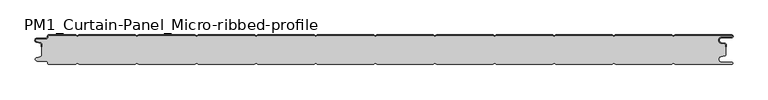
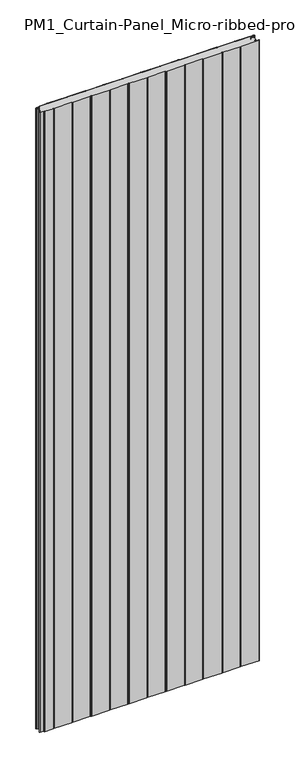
"""IFC4 building model written with IfcOpenShell, lengths in millimetres: plate geometry, PM1_Curtain-Panel_Micro-ribbed-profile : ACH_PM1_Acoustic-Sectioning-Panel_50M."""

from ifc_helpers import new_model, si_unit, point, frame, frame_2d, origin, origin_with_axes, place, context, project, spatial, polyline, circle_curve, trimmed, segment, composite_curve, outline, extrude, source, transform, mapped, element, save
from ifc_brep_helpers import plane_surface, cylinder_surface, revolved_surface, advanced_brep


def pm1_curtain_panel_micro_ribbed_profile_237f9545(model_context):
    return source(origin(), model_context, "Body", "SolidModel", [
        advanced_brep(
        [(-575.0, -15.878557, 3500.0), (-575.0, -20.0, 3500.0), (-574.2, -20.0, 3500.0), (-574.2, -15.878557, 3500.0), (-576.370137, -13.1503208, 3500.0), (-582.529863, -11.728236, 3500.0), (-581.9, -6.2, 3500.0), (-566.4, -6.2, 3500.0), (-563.6, -3.4, 3500.0), (-563.6, -2.0, 3500.0), (-562.4, -0.8, 3500.0), (-517.3143588, -0.8, 3500.0), (-514.4, -2.482606, 3500.0), (-511.4856412, -0.8, 3500.0), (-417.3143588, -0.8, 3500.0), (-414.4, -2.482606, 3500.0), (-411.4856412, -0.8, 3500.0), (-317.3143588, -0.8, 3500.0), (-314.4, -2.482606, 3500.0), (-311.4856412, -0.8, 3500.0), (-217.3143588, -0.8, 3500.0), (-214.4, -2.482606, 3500.0), (-211.4856412, -0.8, 3500.0), (-117.3143588, -0.8, 3500.0), (-114.4, -2.482606, 3500.0), (-111.4856412, -0.8, 3500.0), (-17.3143588, -0.8, 3500.0), (-14.4, -2.482606, 3500.0), (-11.4856412, -0.8, 3500.0), (82.6856412, -0.8, 3500.0), (85.6, -2.482606, 3500.0), (88.5143588, -0.8, 3500.0), (182.6856412, -0.8, 3500.0), (185.6, -2.482606, 3500.0), (188.5143588, -0.8, 3500.0), (282.6856412, -0.8, 3500.0), (285.6, -2.482606, 3500.0), (288.5143588, -0.8, 3500.0), (382.6856412, -0.8, 3500.0), (385.6, -2.482606, 3500.0), (388.5143588, -0.8, 3500.0), (482.6856412, -0.8, 3500.0), (485.6, -2.482606, 3500.0), (488.5143588, -0.8, 3500.0), (583.1, -0.8, 3500.0), (583.1, -4.2, 3500.0), (566.1, -4.2, 3500.0), (565.2664884, -13.7270771, 3500.0), (571.7125669, -14.8636953, 3500.0), (573.2, -16.6363492, 3500.0), (573.2, -20.0, 3500.0), (574.0, -20.0, 3500.0), (574.0, -16.6363492, 3500.0), (571.8514855, -14.0758491, 3500.0), (565.405407, -12.939231, 3500.0), (566.1, -5.0, 3500.0), (583.1, -5.0, 3500.0), (585.6, -2.5, 3500.0), (583.1, 0.0, 3500.0), (488.2999995, 0.0, 3500.0), (485.6, -1.5588455, 3500.0), (482.9000005, 0.0, 3500.0), (388.2999995, 0.0, 3500.0), (385.6, -1.5588455, 3500.0), (382.9000005, 0.0, 3500.0), (288.2999995, 0.0, 3500.0), (285.6, -1.5588455, 3500.0), (282.9000005, 0.0, 3500.0), (188.2999995, 0.0, 3500.0), (185.6, -1.5588455, 3500.0), (182.9000005, 0.0, 3500.0), (88.2999995, 0.0, 3500.0), (85.6, -1.5588455, 3500.0), (82.9000005, 0.0, 3500.0), (-11.7000005, 0.0, 3500.0), (-14.4, -1.5588455, 3500.0), (-17.0999995, 0.0, 3500.0), (-111.7000005, 0.0, 3500.0), (-114.4, -1.5588455, 3500.0), (-117.0999995, 0.0, 3500.0), (-211.7000005, 0.0, 3500.0), (-214.4, -1.5588455, 3500.0), (-217.0999995, 0.0, 3500.0), (-311.7000005, 0.0, 3500.0), (-314.4, -1.5588455, 3500.0), (-317.0999995, 0.0, 3500.0), (-411.7000005, 0.0, 3500.0), (-414.4, -1.5588455, 3500.0), (-417.0999995, 0.0, 3500.0), (-511.7000005, 0.0, 3500.0), (-514.4, -1.5588455, 3500.0), (-517.0999995, 0.0, 3500.0), (-562.4, 0.0, 3500.0), (-564.4, -2.0, 3500.0), (-564.4, -3.4, 3500.0), (-566.4, -5.4, 3500.0), (-581.9, -5.4, 3500.0), (-582.7098239, -12.5077322, 3500.0), (-576.5500979, -13.929817, 3500.0), (-575.0, -15.878557, 0.0), (-576.5500978, -13.9298169, 0.0), (-582.7098239, -12.507732, 0.0), (-581.9, -5.4, 0.0), (-566.4, -5.4, 0.0), (-564.4, -3.4, 0.0), (-564.4, -2.0, 0.0), (-562.4, 0.0, 0.0), (-517.0999995, 0.0, 0.0), (-514.4, -1.5588455, 0.0), (-511.7000005, 0.0, 0.0), (-417.0999995, 0.0, 0.0), (-414.4, -1.5588455, 0.0), (-411.7000005, 0.0, 0.0), (-317.0999995, 0.0, 0.0), (-314.4, -1.5588455, 0.0), (-311.7000005, 0.0, 0.0), (-217.0999995, 0.0, 0.0), (-214.4, -1.5588455, 0.0), (-211.7000005, 0.0, 0.0), (-117.0999995, 0.0, 0.0), (-114.4, -1.5588455, 0.0), (-111.7000005, 0.0, 0.0), (-17.0999995, 0.0, 0.0), (-14.4, -1.5588455, 0.0), (-11.7000005, 0.0, 0.0), (82.9000005, 0.0, 0.0), (85.6, -1.5588455, 0.0), (88.2999995, 0.0, 0.0), (182.9000005, 0.0, 0.0), (185.6, -1.5588455, 0.0), (188.2999995, 0.0, 0.0), (282.9000005, 0.0, 0.0), (285.6, -1.5588455, 0.0), (288.2999995, 0.0, 0.0), (382.9000005, 0.0, 0.0), (385.6, -1.5588455, 0.0), (388.2999995, 0.0, 0.0), (482.9000005, 0.0, 0.0), (485.6, -1.5588455, 0.0), (488.2999995, 0.0, 0.0), (583.1, 0.0, 0.0), (585.6, -2.5, 0.0), (583.1, -5.0, 0.0), (566.1, -5.0, 0.0), (565.405407, -12.939231, 0.0), (571.8514855, -14.0758491, 0.0), (574.0, -16.6363492, 0.0), (574.0, -20.0, 0.0), (573.2, -20.0, 0.0), (573.2, -16.6363492, 0.0), (571.7125669, -14.8636953, 0.0), (565.2664884, -13.7270772, 0.0), (566.1, -4.2, 0.0), (583.1, -4.2, 0.0), (583.1, -0.8, 0.0), (488.5143588, -0.8, 0.0), (485.6, -2.482606, 0.0), (482.6856412, -0.8, 0.0), (388.5143588, -0.8, 0.0), (385.6, -2.482606, 0.0), (382.6856412, -0.8, 0.0), (288.5143588, -0.8, 0.0), (285.6, -2.482606, 0.0), (282.6856412, -0.8, 0.0), (188.5143588, -0.8, 0.0), (185.6, -2.482606, 0.0), (182.6856412, -0.8, 0.0), (88.5143588, -0.8, 0.0), (85.6, -2.482606, 0.0), (82.6856412, -0.8, 0.0), (-11.4856412, -0.8, 0.0), (-14.4, -2.482606, 0.0), (-17.3143588, -0.8, 0.0), (-111.4856412, -0.8, 0.0), (-114.4, -2.482606, 0.0), (-117.3143588, -0.8, 0.0), (-211.4856412, -0.8, 0.0), (-214.4, -2.482606, 0.0), (-217.3143588, -0.8, 0.0), (-311.4856412, -0.8, 0.0), (-314.4, -2.482606, 0.0), (-317.3143588, -0.8, 0.0), (-411.4856412, -0.8, 0.0), (-414.4, -2.482606, 0.0), (-417.3143588, -0.8, 0.0), (-511.4856412, -0.8, 0.0), (-514.4, -2.482606, 0.0), (-517.3143588, -0.8, 0.0), (-562.4, -0.8, 0.0), (-563.6, -2.0, 0.0), (-563.6, -3.4, 0.0), (-566.4, -6.2, 0.0), (-581.9, -6.2, 0.0), (-582.529863, -11.7282362, 0.0), (-576.370137, -13.150321, 0.0), (-574.2, -15.878557, 0.0), (-574.2, -20.0, 0.0), (-575.0, -20.0, 0.0)],
        [
            (0, 1),
            (1, 2),
            (2, 3),
            (3, 4, circle_curve(frame((-577.0, -15.878557, 3500.0), z_axis=(0.0, 0.0, 1.0), x_axis=(1.0, 0.0, 0.0)), 2.8)),
            (4, 5),
            (5, 6, circle_curve(frame((-581.9, -9.0, 3500.0), z_axis=(0.0, 0.0, -1.0), x_axis=(1.0, 0.0, 0.0)), 2.8)),
            (6, 7),
            (7, 8, circle_curve(frame((-566.4, -3.4, 3500.0), z_axis=(0.0, 0.0, 1.0), x_axis=(1.0, 0.0, 0.0)), 2.8)),
            (8, 9),
            (9, 10, circle_curve(frame((-562.4, -2.0, 3500.0), z_axis=(0.0, 0.0, -1.0), x_axis=(1.0, 0.0, 0.0)), 1.2)),
            (10, 11),
            (11, 12),
            (12, 13),
            (13, 14),
            (14, 15),
            (15, 16),
            (16, 17),
            (17, 18),
            (18, 19),
            (19, 20),
            (20, 21),
            (21, 22),
            (22, 23),
            (23, 24),
            (24, 25),
            (25, 26),
            (26, 27),
            (27, 28),
            (28, 29),
            (29, 30),
            (30, 31),
            (31, 32),
            (32, 33),
            (33, 34),
            (34, 35),
            (35, 36),
            (36, 37),
            (37, 38),
            (38, 39),
            (39, 40),
            (40, 41),
            (41, 42),
            (42, 43),
            (43, 44),
            (44, 45, circle_curve(frame((583.1, -2.5, 3500.0), z_axis=(0.0, 0.0, -1.0), x_axis=(1.0, 0.0, 0.0)), 1.7)),
            (45, 46),
            (46, 47, circle_curve(frame((566.1, -9.0, 3500.0), z_axis=(0.0, 0.0, 1.0), x_axis=(1.0, 0.0, 0.0)), 4.8)),
            (47, 48),
            (48, 49, circle_curve(frame((571.4, -16.6363492, 3500.0), z_axis=(0.0, 0.0, -1.0), x_axis=(1.0, 0.0, 0.0)), 1.8)),
            (49, 50),
            (50, 51),
            (51, 52),
            (52, 53, circle_curve(frame((571.4, -16.6363492, 3500.0), z_axis=(0.0, 0.0, 1.0), x_axis=(1.0, 0.0, 0.0)), 2.6)),
            (53, 54),
            (54, 55, circle_curve(frame((566.1, -9.0, 3500.0), z_axis=(0.0, 0.0, -1.0), x_axis=(1.0, 0.0, 0.0)), 4.0)),
            (55, 56),
            (56, 57, circle_curve(frame((583.1, -2.5, 3500.0), z_axis=(0.0, 0.0, 1.0), x_axis=(1.0, 0.0, 0.0)), 2.5)),
            (57, 58, circle_curve(frame((583.1, -2.5, 3500.0), z_axis=(0.0, 0.0, 1.0), x_axis=(1.0, 0.0, 0.0)), 2.5)),
            (58, 59),
            (59, 60),
            (60, 61),
            (61, 62),
            (62, 63),
            (63, 64),
            (64, 65),
            (65, 66),
            (66, 67),
            (67, 68),
            (68, 69),
            (69, 70),
            (70, 71),
            (71, 72),
            (72, 73),
            (73, 74),
            (74, 75),
            (75, 76),
            (76, 77),
            (77, 78),
            (78, 79),
            (79, 80),
            (80, 81),
            (81, 82),
            (82, 83),
            (83, 84),
            (84, 85),
            (85, 86),
            (86, 87),
            (87, 88),
            (88, 89),
            (89, 90),
            (90, 91),
            (91, 92),
            (92, 93, circle_curve(frame((-562.4, -2.0, 3500.0), z_axis=(0.0, 0.0, 1.0), x_axis=(1.0, 0.0, 0.0)), 2.0)),
            (93, 94),
            (94, 95, circle_curve(frame((-566.4, -3.4, 3500.0), z_axis=(0.0, 0.0, -1.0), x_axis=(1.0, 0.0, 0.0)), 2.0)),
            (95, 96),
            (96, 97, circle_curve(frame((-581.9, -9.0, 3500.0), z_axis=(0.0, 0.0, 1.0), x_axis=(1.0, 0.0, 0.0)), 3.6)),
            (97, 98),
            (98, 0, circle_curve(frame((-577.0, -15.878557, 3500.0), z_axis=(0.0, 0.0, -1.0), x_axis=(1.0, 0.0, 0.0)), 2.0)),
            (99, 100, circle_curve(frame((-577.0, -15.878557, 0.0), z_axis=(0.0, 0.0, 1.0), x_axis=(1.0, 0.0, 0.0)), 2.0)),
            (100, 101),
            (101, 102, circle_curve(frame((-581.9, -9.0, 0.0), z_axis=(0.0, 0.0, -1.0), x_axis=(1.0, 0.0, 0.0)), 3.6)),
            (102, 103),
            (103, 104, circle_curve(frame((-566.4, -3.4, 0.0), z_axis=(0.0, 0.0, 1.0), x_axis=(1.0, 0.0, 0.0)), 2.0)),
            (104, 105),
            (105, 106, circle_curve(frame((-562.4, -2.0, 0.0), z_axis=(0.0, 0.0, -1.0), x_axis=(1.0, 0.0, 0.0)), 2.0)),
            (106, 107),
            (107, 108),
            (108, 109),
            (109, 110),
            (110, 111),
            (111, 112),
            (112, 113),
            (113, 114),
            (114, 115),
            (115, 116),
            (116, 117),
            (117, 118),
            (118, 119),
            (119, 120),
            (120, 121),
            (121, 122),
            (122, 123),
            (123, 124),
            (124, 125),
            (125, 126),
            (126, 127),
            (127, 128),
            (128, 129),
            (129, 130),
            (130, 131),
            (131, 132),
            (132, 133),
            (133, 134),
            (134, 135),
            (135, 136),
            (136, 137),
            (137, 138),
            (138, 139),
            (139, 140),
            (140, 141, circle_curve(frame((583.1, -2.5, 0.0), z_axis=(0.0, 0.0, -1.0), x_axis=(1.0, 0.0, 0.0)), 2.5)),
            (141, 142, circle_curve(frame((583.1, -2.5, 0.0), z_axis=(0.0, 0.0, -1.0), x_axis=(1.0, 0.0, 0.0)), 2.5)),
            (142, 143),
            (143, 144, circle_curve(frame((566.1, -9.0, 0.0), z_axis=(0.0, 0.0, 1.0), x_axis=(1.0, 0.0, 0.0)), 4.0)),
            (144, 145),
            (145, 146, circle_curve(frame((571.4, -16.6363492, 0.0), z_axis=(0.0, 0.0, -1.0), x_axis=(1.0, 0.0, 0.0)), 2.6)),
            (146, 147),
            (147, 148),
            (148, 149),
            (149, 150, circle_curve(frame((571.4, -16.6363492, 0.0), z_axis=(0.0, 0.0, 1.0), x_axis=(1.0, 0.0, 0.0)), 1.8)),
            (150, 151),
            (151, 152, circle_curve(frame((566.1, -9.0, 0.0), z_axis=(0.0, 0.0, -1.0), x_axis=(1.0, 0.0, 0.0)), 4.8)),
            (152, 153),
            (153, 154, circle_curve(frame((583.1, -2.5, 0.0), z_axis=(0.0, 0.0, 1.0), x_axis=(1.0, 0.0, 0.0)), 1.7)),
            (154, 155),
            (155, 156),
            (156, 157),
            (157, 158),
            (158, 159),
            (159, 160),
            (160, 161),
            (161, 162),
            (162, 163),
            (163, 164),
            (164, 165),
            (165, 166),
            (166, 167),
            (167, 168),
            (168, 169),
            (169, 170),
            (170, 171),
            (171, 172),
            (172, 173),
            (173, 174),
            (174, 175),
            (175, 176),
            (176, 177),
            (177, 178),
            (178, 179),
            (179, 180),
            (180, 181),
            (181, 182),
            (182, 183),
            (183, 184),
            (184, 185),
            (185, 186),
            (186, 187),
            (187, 188),
            (188, 189, circle_curve(frame((-562.4, -2.0, 0.0), z_axis=(0.0, 0.0, 1.0), x_axis=(1.0, 0.0, 0.0)), 1.2)),
            (189, 190),
            (190, 191, circle_curve(frame((-566.4, -3.4, 0.0), z_axis=(0.0, 0.0, -1.0), x_axis=(1.0, 0.0, 0.0)), 2.8)),
            (191, 192),
            (192, 193, circle_curve(frame((-581.9, -9.0, 0.0), z_axis=(0.0, 0.0, 1.0), x_axis=(1.0, 0.0, 0.0)), 2.8)),
            (193, 194),
            (194, 195, circle_curve(frame((-577.0, -15.878557, 0.0), z_axis=(0.0, 0.0, -1.0), x_axis=(1.0, 0.0, 0.0)), 2.8)),
            (195, 196),
            (196, 197),
            (197, 99),
            (0, 99),
            (197, 1),
            (196, 2),
            (195, 3),
            (194, 4),
            (193, 5),
            (192, 6),
            (191, 7),
            (190, 8),
            (189, 9),
            (188, 10),
            (187, 11),
            (186, 12),
            (185, 13),
            (184, 14),
            (183, 15),
            (182, 16),
            (181, 17),
            (180, 18),
            (179, 19),
            (178, 20),
            (177, 21),
            (176, 22),
            (175, 23),
            (174, 24),
            (173, 25),
            (172, 26),
            (171, 27),
            (170, 28),
            (169, 29),
            (168, 30),
            (167, 31),
            (166, 32),
            (165, 33),
            (164, 34),
            (163, 35),
            (162, 36),
            (161, 37),
            (160, 38),
            (159, 39),
            (158, 40),
            (157, 41),
            (156, 42),
            (155, 43),
            (154, 44),
            (153, 45),
            (152, 46),
            (151, 47),
            (150, 48),
            (149, 49),
            (148, 50),
            (147, 51),
            (146, 52),
            (145, 53),
            (144, 54),
            (143, 55),
            (142, 56),
            (140, 58),
            (139, 59),
            (138, 60),
            (137, 61),
            (136, 62),
            (135, 63),
            (134, 64),
            (133, 65),
            (132, 66),
            (131, 67),
            (130, 68),
            (129, 69),
            (128, 70),
            (127, 71),
            (126, 72),
            (125, 73),
            (124, 74),
            (123, 75),
            (122, 76),
            (121, 77),
            (120, 78),
            (119, 79),
            (118, 80),
            (117, 81),
            (116, 82),
            (115, 83),
            (114, 84),
            (113, 85),
            (112, 86),
            (111, 87),
            (110, 88),
            (109, 89),
            (108, 90),
            (107, 91),
            (106, 92),
            (105, 93),
            (104, 94),
            (103, 95),
            (102, 96),
            (101, 97),
            (100, 98),
        ],
        [
            plane_surface(frame((-575.0, 0.0, 3500.0), z_axis=(0.0, 0.0, 1.0), x_axis=(0.0, 1.0, 0.0))),
            plane_surface(frame((-575.0, 0.0, 0.0), z_axis=(0.0, 0.0, -1.0), x_axis=(0.0, 1.0, 0.0))),
            plane_surface(frame((-575.0, -15.878557, 3500.0), z_axis=(-1.0, 0.0, 0.0), x_axis=(0.0, 0.0, -1.0))),
            plane_surface(frame((-575.0, -20.0, 3500.0), z_axis=(0.0, -1.0, 0.0), x_axis=(0.0, 0.0, -1.0))),
            plane_surface(frame((-574.2, -20.0, 3500.0), z_axis=(1.0, 0.0, 0.0), x_axis=(0.0, 0.0, -1.0))),
            cylinder_surface(frame((-577.0, -15.878557, 3500.0), z_axis=(0.0, 0.0, 1.0), x_axis=(1.0, 0.0, 0.0)), 2.8),
            plane_surface(frame((-576.370137, -13.150321, 3500.0), z_axis=(0.22495108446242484, 0.9743700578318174, 0.0), x_axis=(0.0, 0.0, -1.0))),
            revolved_surface(polyline([(-579.1, -9.0, 0.0), (-579.1, -9.0, 3500.0)]), (-581.9, -9.0, 3500.0), (0.0, 0.0, -1.0)),
            plane_surface(frame((-581.9, -6.2, 3500.0), z_axis=(0.0, -1.0, 0.0), x_axis=(0.0, 0.0, -1.0))),
            cylinder_surface(frame((-566.4, -3.4, 3500.0), z_axis=(0.0, 0.0, 1.0), x_axis=(1.0, 0.0, 0.0)), 2.8),
            plane_surface(frame((-563.6, -3.4, 3500.0), z_axis=(1.0, 0.0, 0.0), x_axis=(0.0, 0.0, -1.0))),
            revolved_surface(polyline([(-561.1999999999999, -2.0, 0.0), (-561.1999999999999, -2.0, 3500.0)]), (-562.4, -2.0, 3500.0), (0.0, 0.0, -1.0)),
            plane_surface(frame((-562.4, -0.8, 3500.0), z_axis=(0.0, -1.0, 0.0), x_axis=(0.0, 0.0, -1.0))),
            plane_surface(frame((-517.3143588, -0.8, 3500.0), z_axis=(-0.5000000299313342, -0.8660253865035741, 0.0), x_axis=(0.0, 0.0, -1.0))),
            plane_surface(frame((-514.4, -2.482606, 3500.0), z_axis=(0.5000000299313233, -0.8660253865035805, 0.0), x_axis=(0.0, 0.0, -1.0))),
            plane_surface(frame((-511.4856412, -0.8, 3500.0), z_axis=(0.0, -1.0, 0.0), x_axis=(0.0, 0.0, -1.0))),
            plane_surface(frame((-417.3143588, -0.8, 3500.0), z_axis=(-0.5000000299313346, -0.8660253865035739, 0.0), x_axis=(0.0, 0.0, -1.0))),
            plane_surface(frame((-414.4, -2.482606, 3500.0), z_axis=(0.5000000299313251, -0.8660253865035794, 0.0), x_axis=(0.0, 0.0, -1.0))),
            plane_surface(frame((-411.4856412, -0.8, 3500.0), z_axis=(0.0, -1.0, 0.0), x_axis=(0.0, 0.0, -1.0))),
            plane_surface(frame((-317.3143588, -0.8, 3500.0), z_axis=(-0.5000000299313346, -0.866025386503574, 0.0), x_axis=(0.0, 0.0, -1.0))),
            plane_surface(frame((-314.4, -2.482606, 3500.0), z_axis=(0.5000000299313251, -0.8660253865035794, 0.0), x_axis=(0.0, 0.0, -1.0))),
            plane_surface(frame((-311.4856412, -0.8, 3500.0), z_axis=(0.0, -1.0, 0.0), x_axis=(0.0, 0.0, -1.0))),
            plane_surface(frame((-217.3143588, -0.8, 3500.0), z_axis=(-0.5000000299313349, -0.8660253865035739, 0.0), x_axis=(0.0, 0.0, -1.0))),
            plane_surface(frame((-214.4, -2.482606, 3500.0), z_axis=(0.5000000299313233, -0.8660253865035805, 0.0), x_axis=(0.0, 0.0, -1.0))),
            plane_surface(frame((-211.4856412, -0.8, 3500.0), z_axis=(0.0, -1.0, 0.0), x_axis=(0.0, 0.0, -1.0))),
            plane_surface(frame((-117.3143588, -0.8, 3500.0), z_axis=(-0.5000000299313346, -0.866025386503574, 0.0), x_axis=(0.0, 0.0, -1.0))),
            plane_surface(frame((-114.4, -2.482606, 3500.0), z_axis=(0.5000000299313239, -0.8660253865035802, 0.0), x_axis=(0.0, 0.0, -1.0))),
            plane_surface(frame((-111.4856412, -0.8, 3500.0), z_axis=(0.0, -1.0, 0.0), x_axis=(0.0, 0.0, -1.0))),
            plane_surface(frame((-17.3143588, -0.8, 3500.0), z_axis=(-0.5000000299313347, -0.8660253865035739, 0.0), x_axis=(0.0, 0.0, -1.0))),
            plane_surface(frame((-14.4, -2.482606, 3500.0), z_axis=(0.5000000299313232, -0.8660253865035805, 0.0), x_axis=(0.0, 0.0, -1.0))),
            plane_surface(frame((-11.4856412, -0.8, 3500.0), z_axis=(0.0, -1.0, 0.0), x_axis=(0.0, 0.0, -1.0))),
            plane_surface(frame((82.6856412, -0.8, 3500.0), z_axis=(-0.5000000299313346, -0.866025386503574, 0.0), x_axis=(0.0, 0.0, -1.0))),
            plane_surface(frame((85.6, -2.482606, 3500.0), z_axis=(0.5000000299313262, -0.8660253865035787, 0.0), x_axis=(0.0, 0.0, -1.0))),
            plane_surface(frame((88.5143588, -0.8, 3500.0), z_axis=(0.0, -1.0, 0.0), x_axis=(0.0, 0.0, -1.0))),
            plane_surface(frame((182.6856412, -0.8, 3500.0), z_axis=(-0.5000000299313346, -0.8660253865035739, 0.0), x_axis=(0.0, 0.0, -1.0))),
            plane_surface(frame((185.6, -2.482606, 3500.0), z_axis=(0.5000000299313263, -0.8660253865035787, 0.0), x_axis=(0.0, 0.0, -1.0))),
            plane_surface(frame((188.5143588, -0.8, 3500.0), z_axis=(0.0, -1.0, 0.0), x_axis=(0.0, 0.0, -1.0))),
            plane_surface(frame((282.6856412, -0.8, 3500.0), z_axis=(-0.5000000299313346, -0.8660253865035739, 0.0), x_axis=(0.0, 0.0, -1.0))),
            plane_surface(frame((285.6, -2.482606, 3500.0), z_axis=(0.5000000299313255, -0.8660253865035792, 0.0), x_axis=(0.0, 0.0, -1.0))),
            plane_surface(frame((288.5143588, -0.8, 3500.0), z_axis=(0.0, -1.0, 0.0), x_axis=(0.0, 0.0, -1.0))),
            plane_surface(frame((382.6856412, -0.8, 3500.0), z_axis=(-0.5000000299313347, -0.8660253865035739, 0.0), x_axis=(0.0, 0.0, -1.0))),
            plane_surface(frame((385.6, -2.482606, 3500.0), z_axis=(0.5000000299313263, -0.8660253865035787, 0.0), x_axis=(0.0, 0.0, -1.0))),
            plane_surface(frame((388.5143588, -0.8, 3500.0), z_axis=(0.0, -1.0, 0.0), x_axis=(0.0, 0.0, -1.0))),
            plane_surface(frame((482.6856412, -0.8, 3500.0), z_axis=(-0.5000000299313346, -0.866025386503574, 0.0), x_axis=(0.0, 0.0, -1.0))),
            plane_surface(frame((485.6, -2.482606, 3500.0), z_axis=(0.5000000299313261, -0.8660253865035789, 0.0), x_axis=(0.0, 0.0, -1.0))),
            plane_surface(frame((535.6, -0.8, 3500.0), z_axis=(0.0, -1.0, 0.0), x_axis=(0.0, 0.0, -1.0))),
            revolved_surface(polyline([(584.8000000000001, -2.5, 0.0), (584.8000000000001, -2.5, 3500.0)]), (583.1, -2.5, 3500.0), (0.0, 0.0, -1.0)),
            plane_surface(frame((583.1, -4.2, 3500.0), z_axis=(0.0, 1.0, 0.0), x_axis=(0.0, 0.0, -1.0))),
            cylinder_surface(frame((566.1, -9.0, 3500.0), z_axis=(0.0, 0.0, 1.0), x_axis=(1.0, 0.0, 0.0)), 4.8),
            plane_surface(frame((565.2664884, -13.7270772, 3500.0), z_axis=(-0.17364825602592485, -0.9848077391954, 0.0), x_axis=(0.0, 0.0, -1.0))),
            revolved_surface(polyline([(573.1999999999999, -16.6363492, 0.0), (573.1999999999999, -16.6363492, 3500.0)]), (571.4, -16.6363492, 3500.0), (0.0, 0.0, -1.0)),
            plane_surface(frame((573.2, -16.6363492, 3500.0), z_axis=(-1.0, 0.0, 0.0), x_axis=(0.0, 0.0, -1.0))),
            plane_surface(frame((573.2, -20.0, 3500.0), z_axis=(0.0, -1.0, 0.0), x_axis=(0.0, 0.0, -1.0))),
            plane_surface(frame((574.0, -20.0, 3500.0), z_axis=(1.0, 0.0, 0.0), x_axis=(0.0, 0.0, -1.0))),
            cylinder_surface(frame((571.4, -16.6363492, 3500.0), z_axis=(0.0, 0.0, 1.0), x_axis=(1.0, 0.0, 0.0)), 2.6),
            plane_surface(frame((571.8514855, -14.0758491, 3500.0), z_axis=(0.1736482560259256, 0.9848077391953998, 0.0), x_axis=(0.0, 0.0, -1.0))),
            revolved_surface(polyline([(570.1, -9.0, 0.0), (570.1, -9.0, 3500.0)]), (566.1, -9.0, 3500.0), (0.0, 0.0, -1.0)),
            plane_surface(frame((566.1, -5.0, 3500.0), z_axis=(0.0, -1.0, 0.0), x_axis=(0.0, 0.0, -1.0))),
            cylinder_surface(frame((583.1, -2.5, 3500.0), z_axis=(0.0, 0.0, 1.0), x_axis=(1.0, 0.0, 0.0)), 2.5),
            plane_surface(frame((535.6, 0.0, 3500.0), z_axis=(0.0, 1.0, 0.0), x_axis=(0.0, 0.0, -1.0))),
            plane_surface(frame((488.2999995, 0.0, 3500.0), z_axis=(-0.5000000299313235, 0.8660253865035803, 0.0), x_axis=(0.0, 0.0, -1.0))),
            plane_surface(frame((485.6, -1.5588455, 3500.0), z_axis=(0.5000000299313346, 0.8660253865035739, 0.0), x_axis=(0.0, 0.0, -1.0))),
            plane_surface(frame((482.9000005, 0.0, 3500.0), z_axis=(0.0, 1.0, 0.0), x_axis=(0.0, 0.0, -1.0))),
            plane_surface(frame((388.2999995, 0.0, 3500.0), z_axis=(-0.5000000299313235, 0.8660253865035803, 0.0), x_axis=(0.0, 0.0, -1.0))),
            plane_surface(frame((385.6, -1.5588455, 3500.0), z_axis=(0.5000000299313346, 0.8660253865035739, 0.0), x_axis=(0.0, 0.0, -1.0))),
            plane_surface(frame((382.9000005, 0.0, 3500.0), z_axis=(0.0, 1.0, 0.0), x_axis=(0.0, 0.0, -1.0))),
            plane_surface(frame((288.2999995, 0.0, 3500.0), z_axis=(-0.5000000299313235, 0.8660253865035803, 0.0), x_axis=(0.0, 0.0, -1.0))),
            plane_surface(frame((285.6, -1.5588455, 3500.0), z_axis=(0.5000000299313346, 0.8660253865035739, 0.0), x_axis=(0.0, 0.0, -1.0))),
            plane_surface(frame((282.9000005, 0.0, 3500.0), z_axis=(0.0, 1.0, 0.0), x_axis=(0.0, 0.0, -1.0))),
            plane_surface(frame((188.2999995, 0.0, 3500.0), z_axis=(-0.5000000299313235, 0.8660253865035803, 0.0), x_axis=(0.0, 0.0, -1.0))),
            plane_surface(frame((185.6, -1.5588455, 3500.0), z_axis=(0.5000000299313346, 0.8660253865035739, 0.0), x_axis=(0.0, 0.0, -1.0))),
            plane_surface(frame((182.9000005, 0.0, 3500.0), z_axis=(0.0, 1.0, 0.0), x_axis=(0.0, 0.0, -1.0))),
            plane_surface(frame((88.2999995, 0.0, 3500.0), z_axis=(-0.5000000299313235, 0.8660253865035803, 0.0), x_axis=(0.0, 0.0, -1.0))),
            plane_surface(frame((85.6, -1.5588455, 3500.0), z_axis=(0.5000000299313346, 0.8660253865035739, 0.0), x_axis=(0.0, 0.0, -1.0))),
            plane_surface(frame((82.9000005, 0.0, 3500.0), z_axis=(0.0, 1.0, 0.0), x_axis=(0.0, 0.0, -1.0))),
            plane_surface(frame((-11.7000005, 0.0, 3500.0), z_axis=(-0.5000000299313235, 0.8660253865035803, 0.0), x_axis=(0.0, 0.0, -1.0))),
            plane_surface(frame((-14.4, -1.5588455, 3500.0), z_axis=(0.5000000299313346, 0.8660253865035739, 0.0), x_axis=(0.0, 0.0, -1.0))),
            plane_surface(frame((-17.0999995, 0.0, 3500.0), z_axis=(0.0, 1.0, 0.0), x_axis=(0.0, 0.0, -1.0))),
            plane_surface(frame((-111.7000005, 0.0, 3500.0), z_axis=(-0.5000000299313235, 0.8660253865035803, 0.0), x_axis=(0.0, 0.0, -1.0))),
            plane_surface(frame((-114.4, -1.5588455, 3500.0), z_axis=(0.5000000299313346, 0.8660253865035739, 0.0), x_axis=(0.0, 0.0, -1.0))),
            plane_surface(frame((-117.0999995, 0.0, 3500.0), z_axis=(0.0, 1.0, 0.0), x_axis=(0.0, 0.0, -1.0))),
            plane_surface(frame((-211.7000005, 0.0, 3500.0), z_axis=(-0.5000000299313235, 0.8660253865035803, 0.0), x_axis=(0.0, 0.0, -1.0))),
            plane_surface(frame((-214.4, -1.5588455, 3500.0), z_axis=(0.5000000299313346, 0.8660253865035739, 0.0), x_axis=(0.0, 0.0, -1.0))),
            plane_surface(frame((-217.0999995, 0.0, 3500.0), z_axis=(0.0, 1.0, 0.0), x_axis=(0.0, 0.0, -1.0))),
            plane_surface(frame((-311.7000005, 0.0, 3500.0), z_axis=(-0.5000000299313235, 0.8660253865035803, 0.0), x_axis=(0.0, 0.0, -1.0))),
            plane_surface(frame((-314.4, -1.5588455, 3500.0), z_axis=(0.5000000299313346, 0.8660253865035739, 0.0), x_axis=(0.0, 0.0, -1.0))),
            plane_surface(frame((-317.0999995, 0.0, 3500.0), z_axis=(0.0, 1.0, 0.0), x_axis=(0.0, 0.0, -1.0))),
            plane_surface(frame((-411.7000005, 0.0, 3500.0), z_axis=(-0.5000000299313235, 0.8660253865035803, 0.0), x_axis=(0.0, 0.0, -1.0))),
            plane_surface(frame((-414.4, -1.5588455, 3500.0), z_axis=(0.5000000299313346, 0.8660253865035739, 0.0), x_axis=(0.0, 0.0, -1.0))),
            plane_surface(frame((-417.0999995, 0.0, 3500.0), z_axis=(0.0, 1.0, 0.0), x_axis=(0.0, 0.0, -1.0))),
            plane_surface(frame((-511.7000005, 0.0, 3500.0), z_axis=(-0.5000000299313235, 0.8660253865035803, 0.0), x_axis=(0.0, 0.0, -1.0))),
            plane_surface(frame((-514.4, -1.5588455, 3500.0), z_axis=(0.5000000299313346, 0.8660253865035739, 0.0), x_axis=(0.0, 0.0, -1.0))),
            plane_surface(frame((-517.0999995, 0.0, 3500.0), z_axis=(0.0, 1.0, 0.0), x_axis=(0.0, 0.0, -1.0))),
            cylinder_surface(frame((-562.4, -2.0, 3500.0), z_axis=(0.0, 0.0, 1.0), x_axis=(1.0, 0.0, 0.0)), 2.0),
            plane_surface(frame((-564.4, -2.0, 3500.0), z_axis=(-1.0, 0.0, 0.0), x_axis=(0.0, 0.0, -1.0))),
            revolved_surface(polyline([(-564.4, -3.4, 0.0), (-564.4, -3.4, 3500.0)]), (-566.4, -3.4, 3500.0), (0.0, 0.0, -1.0)),
            plane_surface(frame((-566.4, -5.4, 3500.0), z_axis=(0.0, 1.0, 0.0), x_axis=(0.0, 0.0, -1.0))),
            cylinder_surface(frame((-581.9, -9.0, 3500.0), z_axis=(0.0, 0.0, 1.0), x_axis=(1.0, 0.0, 0.0)), 3.6),
            plane_surface(frame((-582.7098239, -12.507732, 3500.0), z_axis=(-0.22495108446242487, -0.9743700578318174, 0.0), x_axis=(0.0, 0.0, -1.0))),
            revolved_surface(polyline([(-575.0, -15.878557, 0.0), (-575.0, -15.878557, 3500.0)]), (-577.0, -15.878557, 3500.0), (0.0, 0.0, -1.0)),
        ],
        [
            (0, [[1, 2, 3, 4, 5, 6, 7, 8, 9, 10, 11, 12, 13, 14, 15, 16, 17, 18, 19, 20, 21, 22, 23, 24, 25, 26, 27, 28, 29, 30, 31, 32, 33, 34, 35, 36, 37, 38, 39, 40, 41, 42, 43, 44, 45, 46, 47, 48, 49, 50, 51, 52, 53, 54, 55, 56, 57, 58, 59, 60, 61, 62, 63, 64, 65, 66, 67, 68, 69, 70, 71, 72, 73, 74, 75, 76, 77, 78, 79, 80, 81, 82, 83, 84, 85, 86, 87, 88, 89, 90, 91, 92, 93, 94, 95, 96, 97, 98, 99]]),
            (1, [[100, 101, 102, 103, 104, 105, 106, 107, 108, 109, 110, 111, 112, 113, 114, 115, 116, 117, 118, 119, 120, 121, 122, 123, 124, 125, 126, 127, 128, 129, 130, 131, 132, 133, 134, 135, 136, 137, 138, 139, 140, 141, 142, 143, 144, 145, 146, 147, 148, 149, 150, 151, 152, 153, 154, 155, 156, 157, 158, 159, 160, 161, 162, 163, 164, 165, 166, 167, 168, 169, 170, 171, 172, 173, 174, 175, 176, 177, 178, 179, 180, 181, 182, 183, 184, 185, 186, 187, 188, 189, 190, 191, 192, 193, 194, 195, 196, 197, 198]]),
            (2, [[-1, 199, -198, 200]]),
            (3, [[-2, -200, -197, 201]]),
            (4, [[-3, -201, -196, 202]]),
            (5, [[-4, -202, -195, 203]]),
            (6, [[-5, -203, -194, 204]]),
            (7, [[-6, -204, -193, 205]]),
            (8, [[-7, -205, -192, 206]]),
            (9, [[-8, -206, -191, 207]]),
            (10, [[-9, -207, -190, 208]]),
            (11, [[-10, -208, -189, 209]]),
            (12, [[-11, -209, -188, 210]]),
            (13, [[-12, -210, -187, 211]]),
            (14, [[-13, -211, -186, 212]]),
            (15, [[-14, -212, -185, 213]]),
            (16, [[-15, -213, -184, 214]]),
            (17, [[-16, -214, -183, 215]]),
            (18, [[-17, -215, -182, 216]]),
            (19, [[-18, -216, -181, 217]]),
            (20, [[-19, -217, -180, 218]]),
            (21, [[-20, -218, -179, 219]]),
            (22, [[-21, -219, -178, 220]]),
            (23, [[-22, -220, -177, 221]]),
            (24, [[-23, -221, -176, 222]]),
            (25, [[-24, -222, -175, 223]]),
            (26, [[-25, -223, -174, 224]]),
            (27, [[-26, -224, -173, 225]]),
            (28, [[-27, -225, -172, 226]]),
            (29, [[-28, -226, -171, 227]]),
            (30, [[-29, -227, -170, 228]]),
            (31, [[-30, -228, -169, 229]]),
            (32, [[-31, -229, -168, 230]]),
            (33, [[-32, -230, -167, 231]]),
            (34, [[-33, -231, -166, 232]]),
            (35, [[-34, -232, -165, 233]]),
            (36, [[-35, -233, -164, 234]]),
            (37, [[-36, -234, -163, 235]]),
            (38, [[-37, -235, -162, 236]]),
            (39, [[-38, -236, -161, 237]]),
            (40, [[-39, -237, -160, 238]]),
            (41, [[-40, -238, -159, 239]]),
            (42, [[-41, -239, -158, 240]]),
            (43, [[-42, -240, -157, 241]]),
            (44, [[-43, -241, -156, 242]]),
            (45, [[-44, -242, -155, 243]]),
            (46, [[-45, -243, -154, 244]]),
            (47, [[-46, -244, -153, 245]]),
            (48, [[-47, -245, -152, 246]]),
            (49, [[-48, -246, -151, 247]]),
            (50, [[-49, -247, -150, 248]]),
            (51, [[-50, -248, -149, 249]]),
            (52, [[-51, -249, -148, 250]]),
            (53, [[-52, -250, -147, 251]]),
            (54, [[-53, -251, -146, 252]]),
            (55, [[-54, -252, -145, 253]]),
            (56, [[-55, -253, -144, 254]]),
            (57, [[-56, -254, -143, 255]]),
            (58, [[-255, -142, -141, 256, -58, -57]]),
            (59, [[-59, -256, -140, 257]]),
            (60, [[-60, -257, -139, 258]]),
            (61, [[-61, -258, -138, 259]]),
            (62, [[-62, -259, -137, 260]]),
            (63, [[-63, -260, -136, 261]]),
            (64, [[-64, -261, -135, 262]]),
            (65, [[-65, -262, -134, 263]]),
            (66, [[-66, -263, -133, 264]]),
            (67, [[-67, -264, -132, 265]]),
            (68, [[-68, -265, -131, 266]]),
            (69, [[-69, -266, -130, 267]]),
            (70, [[-70, -267, -129, 268]]),
            (71, [[-71, -268, -128, 269]]),
            (72, [[-72, -269, -127, 270]]),
            (73, [[-73, -270, -126, 271]]),
            (74, [[-74, -271, -125, 272]]),
            (75, [[-75, -272, -124, 273]]),
            (76, [[-76, -273, -123, 274]]),
            (77, [[-77, -274, -122, 275]]),
            (78, [[-78, -275, -121, 276]]),
            (79, [[-79, -276, -120, 277]]),
            (80, [[-80, -277, -119, 278]]),
            (81, [[-81, -278, -118, 279]]),
            (82, [[-82, -279, -117, 280]]),
            (83, [[-83, -280, -116, 281]]),
            (84, [[-84, -281, -115, 282]]),
            (85, [[-85, -282, -114, 283]]),
            (86, [[-86, -283, -113, 284]]),
            (87, [[-87, -284, -112, 285]]),
            (88, [[-88, -285, -111, 286]]),
            (89, [[-89, -286, -110, 287]]),
            (90, [[-90, -287, -109, 288]]),
            (91, [[-91, -288, -108, 289]]),
            (92, [[-92, -289, -107, 290]]),
            (93, [[-93, -290, -106, 291]]),
            (94, [[-94, -291, -105, 292]]),
            (95, [[-95, -292, -104, 293]]),
            (96, [[-96, -293, -103, 294]]),
            (97, [[-97, -294, -102, 295]]),
            (98, [[-98, -295, -101, 296]]),
            (99, [[-99, -296, -100, -199]]),
        ],
    ),
        extrude(outline(composite_curve([segment(polyline([(-574.2, -34.1214426), (-574.2, -15.8785573)]), True, "CONTINUOUS"), segment(trimmed(circle_curve(frame_2d((-577.0, -15.8785573)), 2.8), [point((-574.2, -15.8785573))], [point((-576.370137, -13.1503212))], True, "CARTESIAN"), True, "CONTINUOUS"), segment(polyline([(-576.370137, -13.1503212), (-582.5298631, -11.7282362)]), True, "CONTINUOUS"), segment(trimmed(circle_curve(frame_2d((-581.9, -9.0)), 2.8), [point((-582.5298631, -11.7282362))], [point((-581.9, -6.2))], False, "CARTESIAN"), True, "CONTINUOUS"), segment(polyline([(-581.9, -6.2), (-566.4000001, -6.2)]), True, "CONTINUOUS"), segment(trimmed(circle_curve(frame_2d((-566.4000001, -3.4)), 2.8), [point((-566.4000001, -6.2))], [point((-563.6000001, -3.4))], True, "CARTESIAN"), True, "CONTINUOUS"), segment(polyline([(-563.6000001, -3.4), (-563.6000001, -2.0)]), True, "CONTINUOUS"), segment(trimmed(circle_curve(frame_2d((-562.4000001, -2.0)), 1.2), [point((-563.6000001, -2.0))], [point((-562.4000001, -0.8))], False, "CARTESIAN"), True, "CONTINUOUS"), segment(polyline([(-562.4000001, -0.8), (-517.3143589, -0.8), (-514.4000001, -2.482606), (-511.4856412, -0.8), (-417.3143589, -0.8), (-414.4000001, -2.482606), (-411.4856412, -0.8), (-317.3143589, -0.8), (-314.4000001, -2.482606), (-311.4856412, -0.8), (-217.3143589, -0.8), (-214.4000001, -2.482606), (-211.4856412, -0.8), (-117.3143589, -0.8), (-114.4000001, -2.482606), (-111.4856412, -0.8), (-17.3143589, -0.8), (-14.4000001, -2.482606), (-11.4856412, -0.8), (82.6856411, -0.8), (85.5999999, -2.482606), (88.5143588, -0.8), (182.6856411, -0.8), (185.5999999, -2.482606), (188.5143588, -0.8), (282.6856411, -0.8), (285.5999999, -2.482606), (288.5143588, -0.8), (382.6856411, -0.8), (385.5999999, -2.482606), (388.5143588, -0.8), (482.6856411, -0.8), (485.6, -2.482606), (488.5143588, -0.8), (583.1, -0.8)]), True, "CONTINUOUS"), segment(trimmed(circle_curve(frame_2d((583.1, -2.5)), 1.7), [point((583.1, -0.8))], [point((583.1, -4.2))], False, "CARTESIAN"), True, "CONTINUOUS"), segment(polyline([(583.1, -4.2), (566.1, -4.2)]), True, "CONTINUOUS"), segment(trimmed(circle_curve(frame_2d((566.1, -9.0)), 4.8), [point((566.1, -4.2))], [point((565.2664883, -13.7270771))], True, "CARTESIAN"), True, "CONTINUOUS"), segment(polyline([(565.2664883, -13.7270771), (571.7125668, -14.8636953)]), True, "CONTINUOUS"), segment(trimmed(circle_curve(frame_2d((571.4, -16.6363492)), 1.8), [point((571.7125668, -14.8636953))], [point((573.2, -16.6363492))], False, "CARTESIAN"), True, "CONTINUOUS"), segment(polyline([(573.2, -16.6363492), (573.2, -33.3636508)]), True, "CONTINUOUS"), segment(trimmed(circle_curve(frame_2d((571.4, -33.3636508)), 1.8), [point((573.2, -33.3636508))], [point((571.7125668, -35.1363047))], False, "CARTESIAN"), True, "CONTINUOUS"), segment(polyline([(571.7125668, -35.1363047), (565.2664883, -36.2729229)]), True, "CONTINUOUS"), segment(trimmed(circle_curve(frame_2d((566.1, -41.0)), 4.8), [point((565.2664883, -36.2729229))], [point((566.1, -45.8))], True, "CARTESIAN"), True, "CONTINUOUS"), segment(polyline([(566.1, -45.8), (583.1, -45.8)]), True, "CONTINUOUS"), segment(trimmed(circle_curve(frame_2d((583.1, -47.5)), 1.7), [point((583.1, -45.8))], [point((583.1, -49.2))], False, "CARTESIAN"), True, "CONTINUOUS"), segment(polyline([(583.1, -49.2), (488.5143588, -49.2), (485.6, -47.517394), (482.6856411, -49.2), (388.5143588, -49.2), (385.5999999, -47.517394), (382.6856411, -49.2), (288.5143588, -49.2), (285.5999999, -47.517394), (282.6856411, -49.2), (188.5143588, -49.2), (185.5999999, -47.517394), (182.6856411, -49.2), (88.5143588, -49.2), (85.5999999, -47.517394), (82.6856411, -49.2), (-11.4856412, -49.2), (-14.4000001, -47.517394), (-17.3143589, -49.2), (-111.4856412, -49.2), (-114.4000001, -47.517394), (-117.3143589, -49.2), (-211.4856412, -49.2), (-214.4000001, -47.517394), (-217.3143589, -49.2), (-311.4856412, -49.2), (-314.4000001, -47.517394), (-317.3143589, -49.2), (-411.4856412, -49.2), (-414.4000001, -47.517394), (-417.3143589, -49.2), (-511.4856412, -49.2), (-514.4000001, -47.517394), (-517.3143589, -49.2), (-562.4000001, -49.2)]), True, "CONTINUOUS"), segment(trimmed(circle_curve(frame_2d((-562.4000001, -48.0)), 1.2), [point((-562.4000001, -49.2))], [point((-563.6000001, -48.0))], False, "CARTESIAN"), True, "CONTINUOUS"), segment(polyline([(-563.6000001, -48.0), (-563.6000001, -46.6)]), True, "CONTINUOUS"), segment(trimmed(circle_curve(frame_2d((-566.4000001, -46.6)), 2.8), [point((-563.6000001, -46.6))], [point((-566.4000001, -43.8))], True, "CARTESIAN"), True, "CONTINUOUS"), segment(polyline([(-566.4000001, -43.8), (-581.9, -43.8)]), True, "CONTINUOUS"), segment(trimmed(circle_curve(frame_2d((-581.9, -41.0)), 2.8), [point((-581.9, -43.8))], [point((-582.5298631, -38.2717638))], False, "CARTESIAN"), True, "CONTINUOUS"), segment(polyline([(-582.5298631, -38.2717638), (-576.370137, -36.8496788)]), True, "CONTINUOUS"), segment(trimmed(circle_curve(frame_2d((-577.0, -34.1214426)), 2.8), [point((-576.370137, -36.8496788))], [point((-574.2, -34.1214426))], True, "CARTESIAN"), True, "CONTINUOUS")], self_intersect=False)), origin_with_axes(), (0.0, 0.0, 1.0), 3500.0),
    ])


if __name__ == "__main__":
    model = new_model("IFC4")
    model_context = context("Model", 3, world=origin())
    ifc_project = project(units=[si_unit("LENGTHUNIT", "METRE", prefix="MILLI")], contexts=[model_context])
    site = spatial("IfcSite", under=ifc_project)
    building = spatial("IfcBuilding", under=site)
    placement = place(None, origin())
    pm1_curtain_panel_micro_ribbed_profile_shape = pm1_curtain_panel_micro_ribbed_profile_237f9545(model_context)
    element("IfcPlate", 1, ObjectType="PM1_Curtain-Panel_Micro-ribbed-profile : ACH_PM1_Acoustic-Sectioning-Panel_50M", at=placement, inside=building, context=model_context, shape_type="MappedRepresentation", body=[
        mapped(pm1_curtain_panel_micro_ribbed_profile_shape, transform((0.0, 0.0, 0.0), x_axis=(1.0, 0.0, 0.0), y_axis=(0.0, 1.0, 0.0), z_axis=(0.0, 0.0, 1.0))),
    ])
    save(model, "model.ifc")
